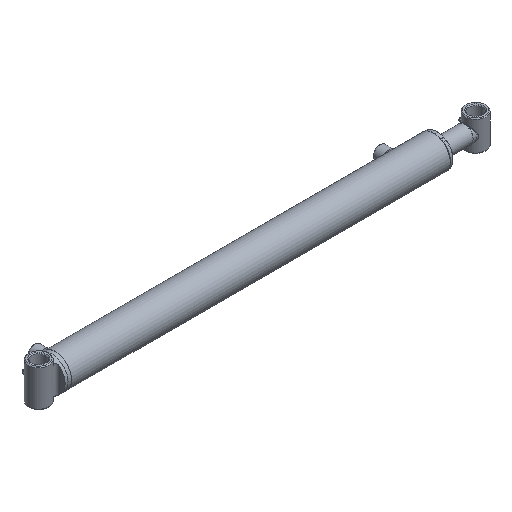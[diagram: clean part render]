
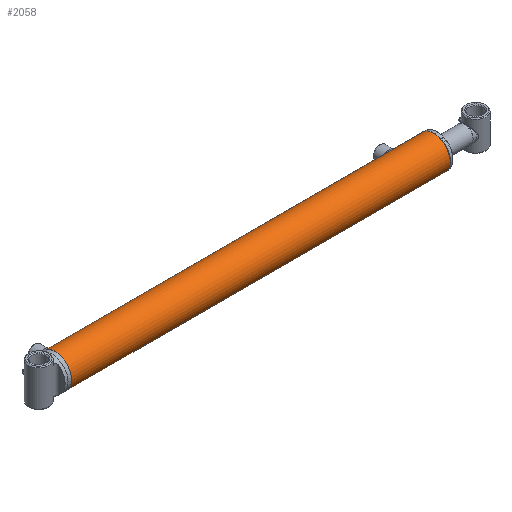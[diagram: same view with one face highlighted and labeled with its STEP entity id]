
A CAD part, isometric view. The second image highlights one B-rep face of the part: STEP entity #2058.
In plain terms, the highlighted cylindrical face has radius 30.163 mm (diameter 60.325 mm), a full revolution.
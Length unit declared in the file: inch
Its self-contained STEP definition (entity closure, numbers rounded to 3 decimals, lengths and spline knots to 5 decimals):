
#377=FACE_BOUND('',#700,.T.);
#378=FACE_BOUND('',#701,.T.);
#379=FACE_BOUND('',#702,.T.);
#500=FACE_OUTER_BOUND('',#699,.T.);
#699=EDGE_LOOP('',(#1636));
#700=EDGE_LOOP('',(#1637));
#701=EDGE_LOOP('',(#1638));
#702=EDGE_LOOP('',(#1639));
#908=CIRCLE('',#2250,1.1875);
#912=CIRCLE('',#2258,1.1875);
#1027=B_SPLINE_CURVE_WITH_KNOTS('',3,(#4745,#4746,#4747,#4748,#4749,#4750,
#4751,#4752,#4753,#4754,#4755,#4756,#4757,#4758,#4759,#4760,#4761,#4762,
#4763,#4764,#4765,#4766,#4767,#4768,#4769,#4770,#4771,#4772,#4773,#4774,
#4775,#4776,#4777,#4778),.UNSPECIFIED.,.T.,.F.,(4,2,2,2,2,2,2,2,2,2,2,2,
2,2,2,2,4),(0.,0.18872,0.37744,0.56616,0.75487,
0.94359,1.1323,1.32102,1.50975,1.69847,
1.88719,2.0759,2.26462,2.45333,2.64205,
2.83077,3.01949),.UNSPECIFIED.);
#1029=B_SPLINE_CURVE_WITH_KNOTS('',3,(#4958,#4959,#4960,#4961,#4962,#4963,
#4964,#4965,#4966,#4967,#4968,#4969,#4970,#4971,#4972,#4973,#4974,#4975,
#4976,#4977,#4978,#4979,#4980,#4981,#4982,#4983,#4984,#4985,#4986,#4987,
#4988,#4989,#4990,#4991),.UNSPECIFIED.,.T.,.F.,(4,2,2,2,2,2,2,2,2,2,2,2,
2,2,2,2,4),(0.,0.18872,0.37744,0.56616,0.75487,
0.94359,1.1323,1.32102,1.50975,1.69847,
1.88719,2.0759,2.26462,2.45333,2.64205,
2.83077,3.01949),.UNSPECIFIED.);
#1098=VERTEX_POINT('',#4744);
#1100=VERTEX_POINT('',#4957);
#1104=VERTEX_POINT('',#5001);
#1108=VERTEX_POINT('',#5013);
#1303=EDGE_CURVE('',#1098,#1098,#1027,.T.);
#1306=EDGE_CURVE('',#1100,#1100,#1029,.T.);
#1310=EDGE_CURVE('',#1104,#1104,#908,.T.);
#1314=EDGE_CURVE('',#1108,#1108,#912,.T.);
#1636=ORIENTED_EDGE('',*,*,#1314,.T.);
#1637=ORIENTED_EDGE('',*,*,#1303,.T.);
#1638=ORIENTED_EDGE('',*,*,#1306,.T.);
#1639=ORIENTED_EDGE('',*,*,#1310,.F.);
#1980=CYLINDRICAL_SURFACE('',#2260,1.1875);
#2058=ADVANCED_FACE('',(#500,#377,#378,#379),#1980,.T.);
#2250=AXIS2_PLACEMENT_3D('',#5002,#2627,#2628);
#2258=AXIS2_PLACEMENT_3D('',#5014,#2643,#2644);
#2260=AXIS2_PLACEMENT_3D('',#5016,#2647,#2648);
#2627=DIRECTION('center_axis',(1.,0.,0.));
#2628=DIRECTION('ref_axis',(0.,-1.,0.));
#2643=DIRECTION('center_axis',(1.,0.,0.));
#2644=DIRECTION('ref_axis',(0.,-1.,0.));
#2647=DIRECTION('center_axis',(1.,0.,0.));
#2648=DIRECTION('ref_axis',(0.,-1.,0.));
#4744=CARTESIAN_POINT('',(11.94094,1.17107,-0.19685));
#4745=CARTESIAN_POINT('Ctrl Pts',(11.94094,1.17107,-0.19685));
#4746=CARTESIAN_POINT('Ctrl Pts',(11.96571,1.17107,-0.19685));
#4747=CARTESIAN_POINT('Ctrl Pts',(11.9921,1.17194,-0.19189));
#4748=CARTESIAN_POINT('Ctrl Pts',(12.04058,1.17505,-0.17179));
#4749=CARTESIAN_POINT('Ctrl Pts',(12.06269,1.17725,-0.15665));
#4750=CARTESIAN_POINT('Ctrl Pts',(12.09759,1.18137,-0.12174));
#4751=CARTESIAN_POINT('Ctrl Pts',(12.11273,1.18356,-0.09964));
#4752=CARTESIAN_POINT('Ctrl Pts',(12.13284,1.18665,-0.05115));
#4753=CARTESIAN_POINT('Ctrl Pts',(12.1378,1.1875,-0.02477));
#4754=CARTESIAN_POINT('Ctrl Pts',(12.1378,1.1875,0.02477));
#4755=CARTESIAN_POINT('Ctrl Pts',(12.13284,1.18665,0.05115));
#4756=CARTESIAN_POINT('Ctrl Pts',(12.11273,1.18356,0.09964));
#4757=CARTESIAN_POINT('Ctrl Pts',(12.09759,1.18137,0.12174));
#4758=CARTESIAN_POINT('Ctrl Pts',(12.06269,1.17725,0.15665));
#4759=CARTESIAN_POINT('Ctrl Pts',(12.04058,1.17505,0.17179));
#4760=CARTESIAN_POINT('Ctrl Pts',(11.9921,1.17194,0.19189));
#4761=CARTESIAN_POINT('Ctrl Pts',(11.96571,1.17107,0.19685));
#4762=CARTESIAN_POINT('Ctrl Pts',(11.91618,1.17107,0.19685));
#4763=CARTESIAN_POINT('Ctrl Pts',(11.88979,1.17194,0.19189));
#4764=CARTESIAN_POINT('Ctrl Pts',(11.84131,1.17505,0.17179));
#4765=CARTESIAN_POINT('Ctrl Pts',(11.8192,1.17725,0.15665));
#4766=CARTESIAN_POINT('Ctrl Pts',(11.7843,1.18137,0.12174));
#4767=CARTESIAN_POINT('Ctrl Pts',(11.76916,1.18356,0.09964));
#4768=CARTESIAN_POINT('Ctrl Pts',(11.74905,1.18665,0.05115));
#4769=CARTESIAN_POINT('Ctrl Pts',(11.74409,1.1875,0.02477));
#4770=CARTESIAN_POINT('Ctrl Pts',(11.74409,1.1875,-0.02477));
#4771=CARTESIAN_POINT('Ctrl Pts',(11.74905,1.18665,-0.05115));
#4772=CARTESIAN_POINT('Ctrl Pts',(11.76916,1.18356,-0.09964));
#4773=CARTESIAN_POINT('Ctrl Pts',(11.7843,1.18137,-0.12174));
#4774=CARTESIAN_POINT('Ctrl Pts',(11.8192,1.17725,-0.15665));
#4775=CARTESIAN_POINT('Ctrl Pts',(11.84131,1.17505,-0.17179));
#4776=CARTESIAN_POINT('Ctrl Pts',(11.88979,1.17194,-0.19189));
#4777=CARTESIAN_POINT('Ctrl Pts',(11.91618,1.17107,-0.19685));
#4778=CARTESIAN_POINT('Ctrl Pts',(11.94094,1.17107,-0.19685));
#4957=CARTESIAN_POINT('',(-13.35827,1.17107,-0.19685));
#4958=CARTESIAN_POINT('Ctrl Pts',(-13.35827,1.17107,-0.19685));
#4959=CARTESIAN_POINT('Ctrl Pts',(-13.3335,1.17107,-0.19685));
#4960=CARTESIAN_POINT('Ctrl Pts',(-13.30712,1.17194,-0.19189));
#4961=CARTESIAN_POINT('Ctrl Pts',(-13.25863,1.17505,-0.17179));
#4962=CARTESIAN_POINT('Ctrl Pts',(-13.23653,1.17725,-0.15665));
#4963=CARTESIAN_POINT('Ctrl Pts',(-13.20162,1.18137,-0.12174));
#4964=CARTESIAN_POINT('Ctrl Pts',(-13.18648,1.18356,-0.09964));
#4965=CARTESIAN_POINT('Ctrl Pts',(-13.16638,1.18665,-0.05115));
#4966=CARTESIAN_POINT('Ctrl Pts',(-13.16142,1.1875,-0.02477));
#4967=CARTESIAN_POINT('Ctrl Pts',(-13.16142,1.1875,0.02477));
#4968=CARTESIAN_POINT('Ctrl Pts',(-13.16638,1.18665,0.05115));
#4969=CARTESIAN_POINT('Ctrl Pts',(-13.18648,1.18356,0.09964));
#4970=CARTESIAN_POINT('Ctrl Pts',(-13.20162,1.18137,0.12174));
#4971=CARTESIAN_POINT('Ctrl Pts',(-13.23653,1.17725,0.15665));
#4972=CARTESIAN_POINT('Ctrl Pts',(-13.25863,1.17505,0.17179));
#4973=CARTESIAN_POINT('Ctrl Pts',(-13.30712,1.17194,0.19189));
#4974=CARTESIAN_POINT('Ctrl Pts',(-13.3335,1.17107,0.19685));
#4975=CARTESIAN_POINT('Ctrl Pts',(-13.38303,1.17107,0.19685));
#4976=CARTESIAN_POINT('Ctrl Pts',(-13.40942,1.17194,0.19189));
#4977=CARTESIAN_POINT('Ctrl Pts',(-13.45791,1.17505,0.17179));
#4978=CARTESIAN_POINT('Ctrl Pts',(-13.48001,1.17725,0.15665));
#4979=CARTESIAN_POINT('Ctrl Pts',(-13.51491,1.18137,0.12174));
#4980=CARTESIAN_POINT('Ctrl Pts',(-13.53006,1.18356,0.09964));
#4981=CARTESIAN_POINT('Ctrl Pts',(-13.55016,1.18665,0.05115));
#4982=CARTESIAN_POINT('Ctrl Pts',(-13.55512,1.1875,0.02477));
#4983=CARTESIAN_POINT('Ctrl Pts',(-13.55512,1.1875,-0.02477));
#4984=CARTESIAN_POINT('Ctrl Pts',(-13.55016,1.18665,-0.05115));
#4985=CARTESIAN_POINT('Ctrl Pts',(-13.53006,1.18356,-0.09964));
#4986=CARTESIAN_POINT('Ctrl Pts',(-13.51491,1.18137,-0.12174));
#4987=CARTESIAN_POINT('Ctrl Pts',(-13.48001,1.17725,-0.15665));
#4988=CARTESIAN_POINT('Ctrl Pts',(-13.45791,1.17505,-0.17179));
#4989=CARTESIAN_POINT('Ctrl Pts',(-13.40942,1.17194,-0.19189));
#4990=CARTESIAN_POINT('Ctrl Pts',(-13.38303,1.17107,-0.19685));
#4991=CARTESIAN_POINT('Ctrl Pts',(-13.35827,1.17107,-0.19685));
#5001=CARTESIAN_POINT('',(13.94882,1.1875,0.));
#5002=CARTESIAN_POINT('Origin',(13.94882,0.,0.));
#5013=CARTESIAN_POINT('',(-13.78494,1.1875,0.));
#5014=CARTESIAN_POINT('Origin',(-13.78494,0.,0.));
#5016=CARTESIAN_POINT('Origin',(0.,0.,0.));
